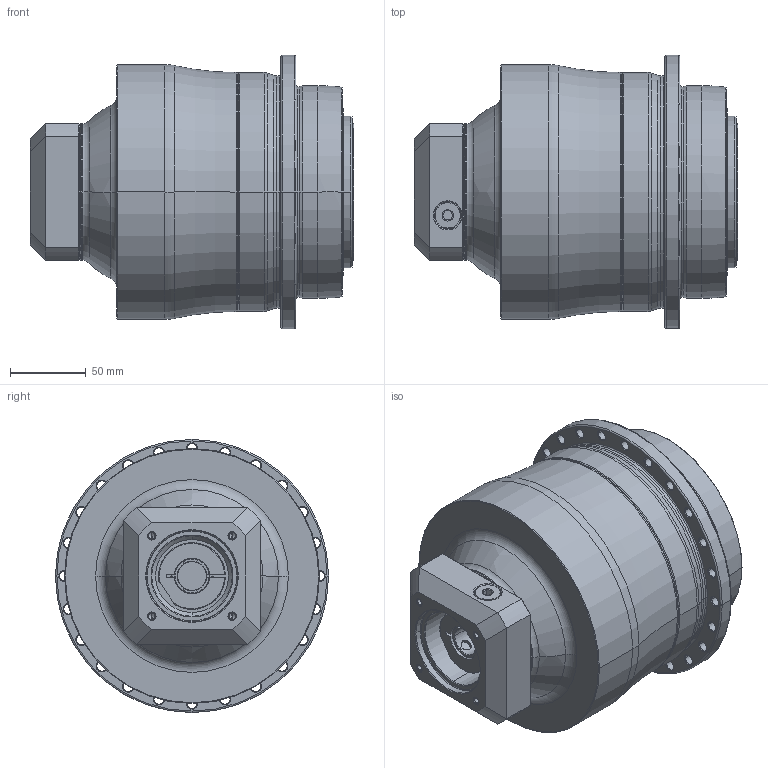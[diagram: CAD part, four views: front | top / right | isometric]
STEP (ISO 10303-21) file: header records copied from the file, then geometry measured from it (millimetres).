
FILE_DESCRIPTION((''),'2;1');
FILE_NAME('AP140_3ST_19-P0409400201_ASM','2018-06-06T',('d01226'),(''),'PRO/ENGINEER BY PARAMETRIC TECHNOLOGY CORPORATION, 2008410','PRO/ENGINEER BY PARAMETRIC TECHNOLOGY CORPORATION, 2008410','');
FILE_SCHEMA(('CONFIG_CONTROL_DESIGN'));
Length unit declared in the file: millimetre
Products named in the file (9): P0278501003; P0359501103; P1366500101; P0503400006; P0912302001; P1211500001; P0409400201; 21711412017; AP140_3ST_19-P0409400201_ASM
Assembly tree (8 placements, depth 2):
  AP140_3ST_19-P0409400201_ASM
    P0278501003
    P0359501103
    P1366500101
    P0503400006
    P0912302001
    P1211500001
    P0409400201
    21711412017
Bounding box: 213 x 180 x 180 mm (x, y, z)
Volume: 3301815 mm3; surface area: 278458.5 mm2
Topology: 9 solids, 34 shells, 643 faces, 1487 edges, 914 vertices
Faces by surface type: cylinder 266, cone 180, plane 107, torus 74, bspline 16
Entity records: 23034 total; most frequent: CARTESIAN_POINT 7608, DIRECTION 3557, ORIENTED_EDGE 2856, AXIS2_PLACEMENT_3D 1523, EDGE_CURVE 1479, VERTEX_POINT 914, CIRCLE 869, EDGE_LOOP 797
